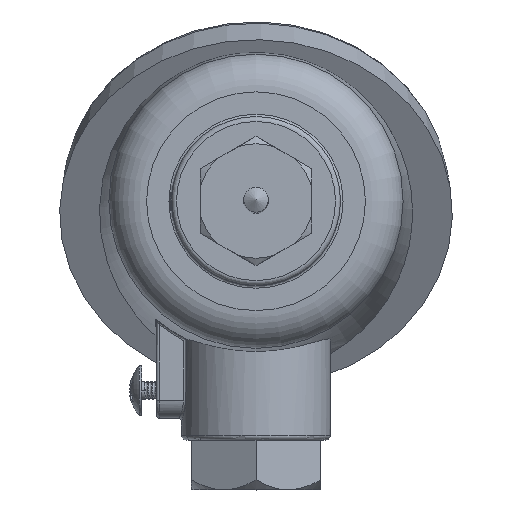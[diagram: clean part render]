
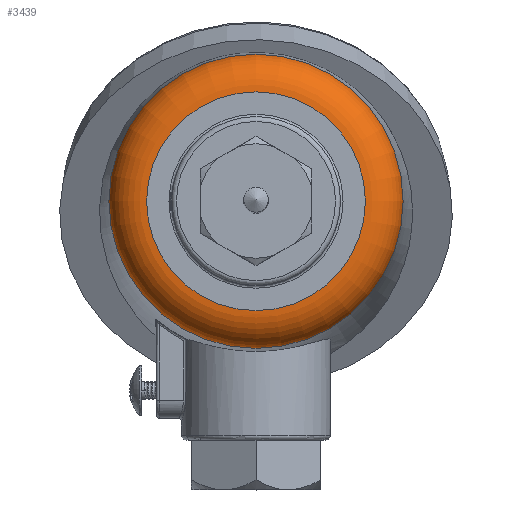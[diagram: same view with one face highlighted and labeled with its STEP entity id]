
A CAD part, top view. The second image highlights one B-rep face of the part: STEP entity #3439.
In plain terms, the highlighted toroidal (fillet/blend) face has major radius 22 mm and minor radius 7.622 mm.
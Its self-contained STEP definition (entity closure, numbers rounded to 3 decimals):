
#153 = DIRECTION ( 'NONE',  ( 0., 0., 1. ) ) ;
#160 = FACE_OUTER_BOUND ( 'NONE', #5420, .T. ) ;
#494 = AXIS2_PLACEMENT_3D ( 'NONE', #2919, #2334, #6209 ) ;
#829 = DIRECTION ( 'NONE',  ( 0., -1., 0. ) ) ;
#985 = ORIENTED_EDGE ( 'NONE', *, *, #2717, .F. ) ;
#1118 = CARTESIAN_POINT ( 'NONE',  ( 0., -22., -25.6 ) ) ;
#1244 = EDGE_LOOP ( 'NONE', ( #985 ) ) ;
#1720 = VERTEX_POINT ( 'NONE', #1118 ) ;
#1918 = VERTEX_POINT ( 'NONE', #4494 ) ;
#2334 = DIRECTION ( 'NONE',  ( 0., 0., 1. ) ) ;
#2717 = EDGE_CURVE ( 'NONE', #1720, #1720, #6545, .T. ) ;
#2743 = DIRECTION ( 'NONE',  ( 0., -1., 0. ) ) ;
#2919 = CARTESIAN_POINT ( 'NONE',  ( 0., 0., -33.222 ) ) ;
#3439 = ADVANCED_FACE ( 'NONE', ( #160, #5358 ), #8045, .T. ) ;
#4012 = CARTESIAN_POINT ( 'NONE',  ( 0., 0., -25.6 ) ) ;
#4209 = CARTESIAN_POINT ( 'NONE',  ( 0., 0., -32.6 ) ) ;
#4494 = CARTESIAN_POINT ( 'NONE',  ( 0., -29.597, -32.6 ) ) ;
#4999 = AXIS2_PLACEMENT_3D ( 'NONE', #4209, #5421, #829 ) ;
#5358 = FACE_OUTER_BOUND ( 'NONE', #1244, .T. ) ;
#5420 = EDGE_LOOP ( 'NONE', ( #6648 ) ) ;
#5421 = DIRECTION ( 'NONE',  ( 0., 0., 1. ) ) ;
#6209 = DIRECTION ( 'NONE',  ( 0., -1., 0. ) ) ;
#6545 = CIRCLE ( 'NONE', #8034, 22. ) ;
#6648 = ORIENTED_EDGE ( 'NONE', *, *, #8238, .T. ) ;
#7151 = CIRCLE ( 'NONE', #4999, 29.597 ) ;
#8034 = AXIS2_PLACEMENT_3D ( 'NONE', #4012, #153, #2743 ) ;
#8045 = TOROIDAL_SURFACE ( 'NONE', #494, 22., 7.622 ) ;
#8238 = EDGE_CURVE ( 'NONE', #1918, #1918, #7151, .T. ) ;
